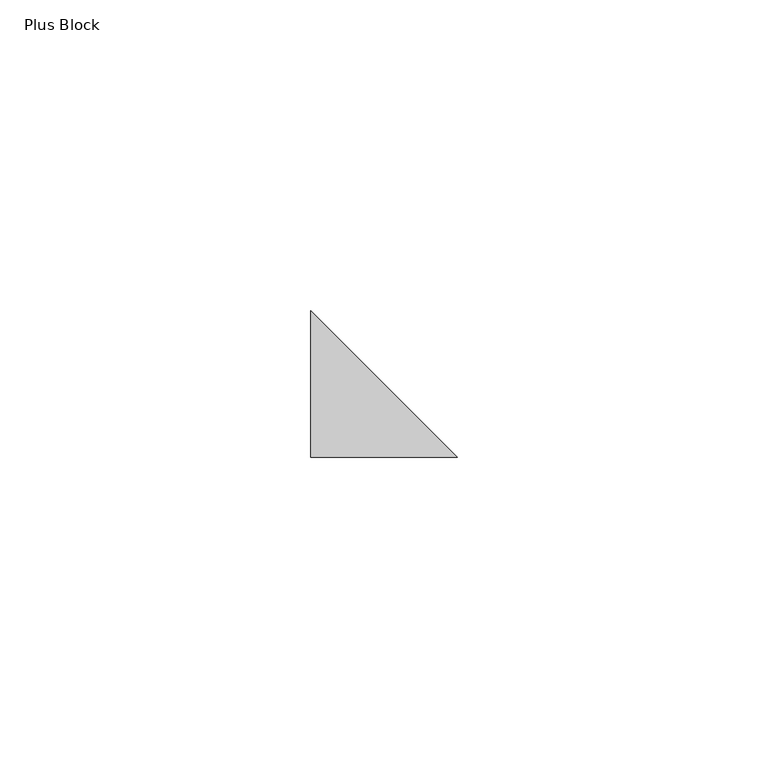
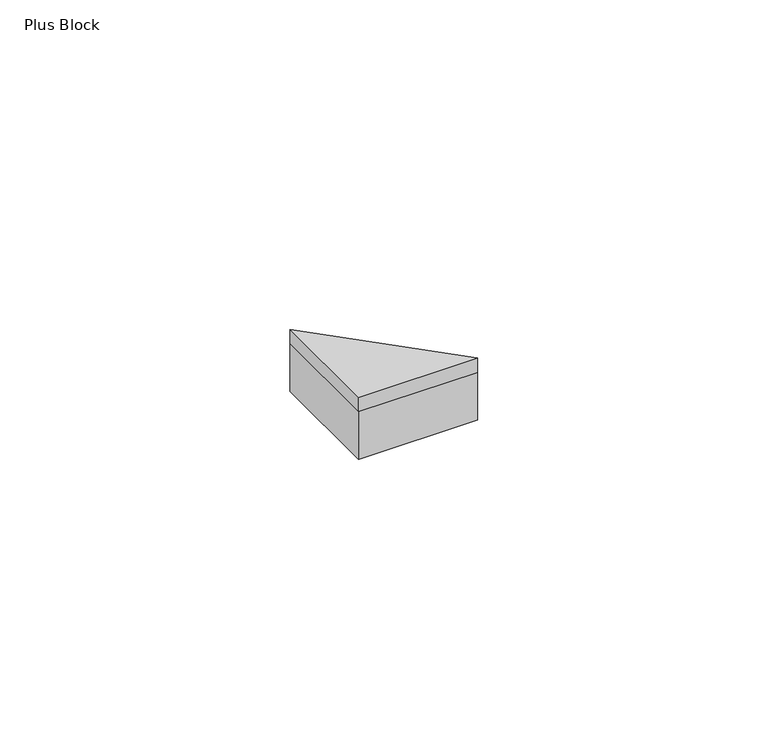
"""IFC4 building model written with IfcOpenShell, lengths in millimetres: proxy geometry, FilzFelt_Plus_Block : Plus Block."""

from ifc_helpers import new_model, si_unit, frame, origin, origin_with_axes, place, context, project, spatial, polyline, outline, extrude, source, transform, mapped, element, save


def plus_block_6635bf12(model_context):
    return source(origin(), model_context, "Body", "SweptSolid", [
        extrude(outline(polyline([(-128.9207795, -50.8333333), (-152.5, -50.8333333), (-152.5, -27.2541128), (-128.9207795, -50.8333333)])), frame((0.0, 0.0, 10.0210937), z_axis=(0.0, 0.0, 1.0), x_axis=(1.0, 0.0, 0.0)), (0.0, 0.0, 1.0), 2.9765625),
        extrude(outline(polyline([(-152.5, -50.8333333), (-152.5, -27.2541128), (-128.9207795, -50.8333333), (-152.5, -50.8333333)])), origin_with_axes(), (0.0, 0.0, 1.0), 10.0210938),
    ])


if __name__ == "__main__":
    model = new_model("IFC4")
    model_context = context("Model", 3, world=origin())
    ifc_project = project(units=[si_unit("LENGTHUNIT", "METRE", prefix="MILLI")], contexts=[model_context])
    site = spatial("IfcSite", under=ifc_project)
    building = spatial("IfcBuilding", under=site)
    placement = place(None, origin())
    plus_block_shape = plus_block_6635bf12(model_context)
    element("IfcBuildingElementProxy", 1, Name="FilzFelt_Plus_Block : Plus Block", ObjectType="FilzFelt_Plus_Block : Plus Block", at=placement, inside=building, context=model_context, shape_type="MappedRepresentation", body=[
        mapped(plus_block_shape, transform((0.0, 0.0, 0.0), x_axis=(1.0, 0.0, 0.0), y_axis=(0.0, 1.0, 0.0), z_axis=(0.0, 0.0, 1.0))),
    ])
    save(model, "model.ifc")
